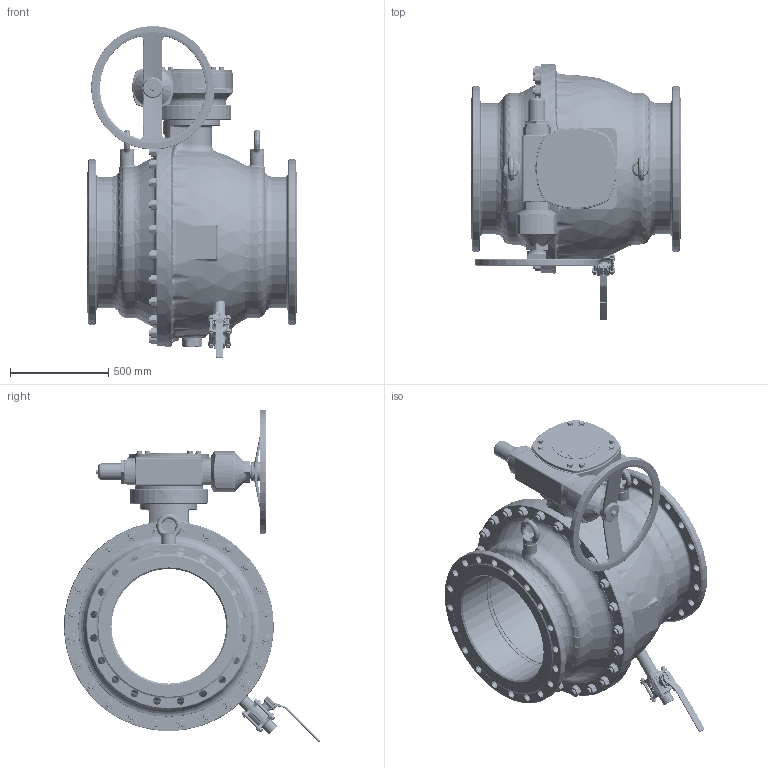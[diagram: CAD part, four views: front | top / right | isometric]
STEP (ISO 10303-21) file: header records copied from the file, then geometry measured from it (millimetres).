
FILE_DESCRIPTION((''),'2;1');
FILE_NAME('KHIFL600VFL600P025MKK_SW0001','2014-09-04T',('schwaba'),('RAND'),'PRO/ENGINEER BY PARAMETRIC TECHNOLOGY CORPORATION, 2013410','PRO/ENGINEER BY PARAMETRIC TECHNOLOGY CORPORATION, 2013410','');
FILE_SCHEMA(('CONFIG_CONTROL_DESIGN'));
Products named in the file (1): KHIFL600VFL600P025MKK_SW0001
Bounding box: 1067 x 1306.4 x 1693.41 mm (x, y, z)
Volume: 262876312.3 mm3; surface area: 15559865.5 mm2
Topology: 2 solids, 13 shells, 5691 faces, 14552 edges, 8955 vertices
Faces by surface type: plane 2319, cylinder 1244, cone 782, bspline 703, torus 582, sphere 61
Entity records: 375769 total; most frequent: CARTESIAN_POINT 242819, ORIENTED_EDGE 28964, DIRECTION 26491, EDGE_CURVE 14482, AXIS2_PLACEMENT_3D 9964, VERTEX_POINT 8955, VECTOR 6563, LINE 6563
